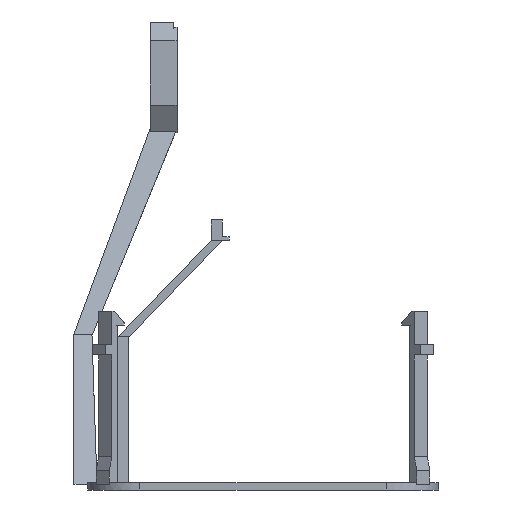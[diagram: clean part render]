
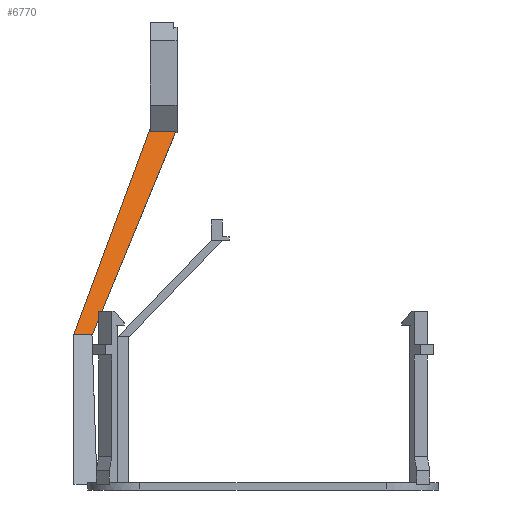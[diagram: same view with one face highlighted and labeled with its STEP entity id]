
A CAD part, left-side view. The second image highlights one B-rep face of the part: STEP entity #6770.
In plain terms, the highlighted free-form (B-spline) face has degree [1, 1] with [2, 2] control points.
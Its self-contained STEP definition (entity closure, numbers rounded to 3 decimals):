
#753 = B_SPLINE_SURFACE_WITH_KNOTS('',1,1,(
    (#754,#755)
    ,(#756,#757
    )),.UNSPECIFIED.,.F.,.F.,.F.,(2,2),(2,2),(-3.5,3.5),(0.,1.),
  .PIECEWISE_BEZIER_KNOTS.);
#754 = CARTESIAN_POINT('',(28.5,35.9,2.));
#755 = CARTESIAN_POINT('',(55.5,37.,34.4));
#756 = CARTESIAN_POINT('',(35.5,35.9,2.));
#757 = CARTESIAN_POINT('',(60.5,37.,34.4));
#6393 = B_SPLINE_SURFACE_WITH_KNOTS('',1,1,(
    (#6394,#6395)
    ,(#6396,#6397
    )),.UNSPECIFIED.,.F.,.F.,.F.,(2,2),(2,2),(-8.,8.),(0.,1.),
  .PIECEWISE_BEZIER_KNOTS.);
#6394 = CARTESIAN_POINT('',(55.5,37.,34.2));
#6395 = CARTESIAN_POINT('',(71.8,18.6,79.));
#6396 = CARTESIAN_POINT('',(60.5,37.,34.2));
#6397 = CARTESIAN_POINT('',(87.8,18.6,79.));
#6538 = PLANE('',#6539);
#6539 = AXIS2_PLACEMENT_3D('',#6540,#6541,#6542);
#6540 = CARTESIAN_POINT('',(55.5,37.,34.4));
#6541 = DIRECTION('',(0.,0.,1.));
#6542 = DIRECTION('',(0.781,0.625,-0.));
#6591 = B_SPLINE_SURFACE_WITH_KNOTS('',1,1,(
    (#6592,#6593)
    ,(#6594,#6595
    )),.UNSPECIFIED.,.F.,.F.,.F.,(2,2),(2,2),(-8.,8.),(0.,1.),
  .PIECEWISE_BEZIER_KNOTS.);
#6592 = CARTESIAN_POINT('',(60.5,41.,34.2));
#6593 = CARTESIAN_POINT('',(87.8,24.4,79.));
#6594 = CARTESIAN_POINT('',(55.5,41.,34.2));
#6595 = CARTESIAN_POINT('',(71.8,24.4,79.));
#6684 = VERTEX_POINT('',#6685);
#6685 = CARTESIAN_POINT('',(55.573,37.,34.4));
#6705 = EDGE_CURVE('',#6684,#6706,#6708,.T.);
#6706 = VERTEX_POINT('',#6707);
#6707 = CARTESIAN_POINT('',(55.573,40.926,34.4));
#6708 = SURFACE_CURVE('',#6709,(#6712,#6718),.PCURVE_S1.);
#6709 = B_SPLINE_CURVE_WITH_KNOTS('',1,(#6710,#6711),.UNSPECIFIED.,.F.,
  .F.,(2,2),(0.,1.),.PIECEWISE_BEZIER_KNOTS.);
#6710 = CARTESIAN_POINT('',(55.573,36.918,34.4));
#6711 = CARTESIAN_POINT('',(55.573,40.926,34.4));
#6712 = PCURVE('',#6538,#6713);
#6713 = DEFINITIONAL_REPRESENTATION('',(#6714),#6717);
#6714 = B_SPLINE_CURVE_WITH_KNOTS('',1,(#6715,#6716),.UNSPECIFIED.,.F.,
  .F.,(2,2),(0.,1.),.PIECEWISE_BEZIER_KNOTS.);
#6715 = CARTESIAN_POINT('',(0.006,-0.11));
#6716 = CARTESIAN_POINT('',(2.509,3.02));
#6717 = ( GEOMETRIC_REPRESENTATION_CONTEXT(2) 
PARAMETRIC_REPRESENTATION_CONTEXT() REPRESENTATION_CONTEXT('2D SPACE',''
  ) );
#6718 = PCURVE('',#6719,#6724);
#6719 = B_SPLINE_SURFACE_WITH_KNOTS('',1,1,(
    (#6720,#6721)
    ,(#6722,#6723
    )),.UNSPECIFIED.,.F.,.F.,.F.,(2,2),(2,2),(-2.9,2.9),(0.,1.),
  .PIECEWISE_BEZIER_KNOTS.);
#6720 = CARTESIAN_POINT('',(55.5,41.,34.2));
#6721 = CARTESIAN_POINT('',(71.8,24.4,79.));
#6722 = CARTESIAN_POINT('',(55.5,37.,34.2));
#6723 = CARTESIAN_POINT('',(71.8,18.6,79.));
#6724 = DEFINITIONAL_REPRESENTATION('',(#6725),#6728);
#6725 = B_SPLINE_CURVE_WITH_KNOTS('',1,(#6726,#6727),.UNSPECIFIED.,.F.,
  .F.,(2,2),(0.,1.),.PIECEWISE_BEZIER_KNOTS.);
#6726 = CARTESIAN_POINT('',(2.9,0.004));
#6727 = CARTESIAN_POINT('',(-2.9,0.004));
#6728 = ( GEOMETRIC_REPRESENTATION_CONTEXT(2) 
PARAMETRIC_REPRESENTATION_CONTEXT() REPRESENTATION_CONTEXT('2D SPACE',''
  ) );
#6770 = ADVANCED_FACE('',(#6771),#6719,.T.);
#6771 = FACE_BOUND('',#6772,.T.);
#6772 = EDGE_LOOP('',(#6773,#6802,#6824,#6849,#6892,#6912));
#6773 = ORIENTED_EDGE('',*,*,#6774,.F.);
#6774 = EDGE_CURVE('',#6775,#6684,#6777,.T.);
#6775 = VERTEX_POINT('',#6776);
#6776 = CARTESIAN_POINT('',(55.506,36.994,
    34.215));
#6777 = SURFACE_CURVE('',#6778,(#6784,#6793),.PCURVE_S1.);
#6778 = B_SPLINE_CURVE_WITH_KNOTS('',4,(#6779,#6780,#6781,#6782,#6783),
  .UNSPECIFIED.,.F.,.F.,(5,5),(0.,1.),.PIECEWISE_BEZIER_KNOTS.);
#6779 = CARTESIAN_POINT('',(55.506,36.994,
    34.215));
#6780 = CARTESIAN_POINT('',(55.522,36.995,
    34.261));
#6781 = CARTESIAN_POINT('',(55.539,36.997,
    34.308));
#6782 = CARTESIAN_POINT('',(55.556,36.998,
    34.354));
#6783 = CARTESIAN_POINT('',(55.573,37.,34.4));
#6784 = PCURVE('',#6719,#6785);
#6785 = DEFINITIONAL_REPRESENTATION('',(#6786),#6792);
#6786 = B_SPLINE_CURVE_WITH_KNOTS('',4,(#6787,#6788,#6789,#6790,#6791),
  .UNSPECIFIED.,.F.,.F.,(5,5),(0.,1.),.PIECEWISE_BEZIER_KNOTS.);
#6787 = CARTESIAN_POINT('',(2.9,0.));
#6788 = CARTESIAN_POINT('',(2.87,0.001));
#6789 = CARTESIAN_POINT('',(2.84,0.002));
#6790 = CARTESIAN_POINT('',(2.811,0.003));
#6791 = CARTESIAN_POINT('',(2.781,0.004));
#6792 = ( GEOMETRIC_REPRESENTATION_CONTEXT(2) 
PARAMETRIC_REPRESENTATION_CONTEXT() REPRESENTATION_CONTEXT('2D SPACE',''
  ) );
#6793 = PCURVE('',#753,#6794);
#6794 = DEFINITIONAL_REPRESENTATION('',(#6795),#6801);
#6795 = B_SPLINE_CURVE_WITH_KNOTS('',4,(#6796,#6797,#6798,#6799,#6800),
  .UNSPECIFIED.,.F.,.F.,(5,5),(0.,1.),.PIECEWISE_BEZIER_KNOTS.);
#6796 = CARTESIAN_POINT('',(-3.277,0.994));
#6797 = CARTESIAN_POINT('',(-3.307,0.996));
#6798 = CARTESIAN_POINT('',(-3.338,0.997));
#6799 = CARTESIAN_POINT('',(-3.368,0.999));
#6800 = CARTESIAN_POINT('',(-3.398,1.));
#6801 = ( GEOMETRIC_REPRESENTATION_CONTEXT(2) 
PARAMETRIC_REPRESENTATION_CONTEXT() REPRESENTATION_CONTEXT('2D SPACE',''
  ) );
#6802 = ORIENTED_EDGE('',*,*,#6803,.T.);
#6803 = EDGE_CURVE('',#6775,#6804,#6806,.T.);
#6804 = VERTEX_POINT('',#6805);
#6805 = CARTESIAN_POINT('',(71.565,18.866,
    78.353));
#6806 = SURFACE_CURVE('',#6807,(#6810,#6817),.PCURVE_S1.);
#6807 = B_SPLINE_CURVE_WITH_KNOTS('',1,(#6808,#6809),.UNSPECIFIED.,.F.,
  .F.,(2,2),(0.,1.),.PIECEWISE_BEZIER_KNOTS.);
#6808 = CARTESIAN_POINT('',(55.5,37.,34.2));
#6809 = CARTESIAN_POINT('',(71.8,18.6,79.));
#6810 = PCURVE('',#6719,#6811);
#6811 = DEFINITIONAL_REPRESENTATION('',(#6812),#6816);
#6812 = LINE('',#6813,#6814);
#6813 = CARTESIAN_POINT('',(2.9,0.));
#6814 = VECTOR('',#6815,1.);
#6815 = DIRECTION('',(0.,1.));
#6816 = ( GEOMETRIC_REPRESENTATION_CONTEXT(2) 
PARAMETRIC_REPRESENTATION_CONTEXT() REPRESENTATION_CONTEXT('2D SPACE',''
  ) );
#6817 = PCURVE('',#6393,#6818);
#6818 = DEFINITIONAL_REPRESENTATION('',(#6819),#6823);
#6819 = LINE('',#6820,#6821);
#6820 = CARTESIAN_POINT('',(-8.,0.));
#6821 = VECTOR('',#6822,1.);
#6822 = DIRECTION('',(0.,1.));
#6823 = ( GEOMETRIC_REPRESENTATION_CONTEXT(2) 
PARAMETRIC_REPRESENTATION_CONTEXT() REPRESENTATION_CONTEXT('2D SPACE',''
  ) );
#6824 = ORIENTED_EDGE('',*,*,#6825,.T.);
#6825 = EDGE_CURVE('',#6804,#6826,#6828,.T.);
#6826 = VERTEX_POINT('',#6827);
#6827 = CARTESIAN_POINT('',(71.565,24.4,78.353));
#6828 = SURFACE_CURVE('',#6829,(#6832,#6838),.PCURVE_S1.);
#6829 = B_SPLINE_CURVE_WITH_KNOTS('',1,(#6830,#6831),.UNSPECIFIED.,.F.,
  .F.,(2,2),(0.,1.),.PIECEWISE_BEZIER_KNOTS.);
#6830 = CARTESIAN_POINT('',(71.565,18.866,
    78.353));
#6831 = CARTESIAN_POINT('',(71.565,24.4,78.353));
#6832 = PCURVE('',#6719,#6833);
#6833 = DEFINITIONAL_REPRESENTATION('',(#6834),#6837);
#6834 = B_SPLINE_CURVE_WITH_KNOTS('',1,(#6835,#6836),.UNSPECIFIED.,.F.,
  .F.,(2,2),(0.,1.),.PIECEWISE_BEZIER_KNOTS.);
#6835 = CARTESIAN_POINT('',(2.9,0.986));
#6836 = CARTESIAN_POINT('',(-2.659,0.986));
#6837 = ( GEOMETRIC_REPRESENTATION_CONTEXT(2) 
PARAMETRIC_REPRESENTATION_CONTEXT() REPRESENTATION_CONTEXT('2D SPACE',''
  ) );
#6838 = PCURVE('',#6839,#6844);
#6839 = PLANE('',#6840);
#6840 = AXIS2_PLACEMENT_3D('',#6841,#6842,#6843);
#6841 = CARTESIAN_POINT('',(71.8,18.6,78.));
#6842 = DIRECTION('',(0.832,0.,0.555));
#6843 = DIRECTION('',(-0.555,0.,0.832));
#6844 = DEFINITIONAL_REPRESENTATION('',(#6845),#6848);
#6845 = B_SPLINE_CURVE_WITH_KNOTS('',1,(#6846,#6847),.UNSPECIFIED.,.F.,
  .F.,(2,2),(0.,1.),.PIECEWISE_BEZIER_KNOTS.);
#6846 = CARTESIAN_POINT('',(0.424,-0.266));
#6847 = CARTESIAN_POINT('',(0.424,-5.8));
#6848 = ( GEOMETRIC_REPRESENTATION_CONTEXT(2) 
PARAMETRIC_REPRESENTATION_CONTEXT() REPRESENTATION_CONTEXT('2D SPACE',''
  ) );
#6849 = ORIENTED_EDGE('',*,*,#6850,.T.);
#6850 = EDGE_CURVE('',#6826,#6851,#6853,.T.);
#6851 = VERTEX_POINT('',#6852);
#6852 = CARTESIAN_POINT('',(71.8,24.4,79.));
#6853 = SURFACE_CURVE('',#6854,(#6863,#6875),.PCURVE_S1.);
#6854 = B_SPLINE_CURVE_WITH_KNOTS('',4,(#6855,#6856,#6857,#6858,#6859,
    #6860,#6861,#6862),.UNSPECIFIED.,.F.,.F.,(5,3,5),(0.,0.113,
    1.),.UNSPECIFIED.);
#6855 = CARTESIAN_POINT('',(71.436,24.4,78.));
#6856 = CARTESIAN_POINT('',(71.446,24.4,78.028));
#6857 = CARTESIAN_POINT('',(71.457,24.4,78.057));
#6858 = CARTESIAN_POINT('',(71.467,24.4,78.085));
#6859 = CARTESIAN_POINT('',(71.558,24.4,78.335));
#6860 = CARTESIAN_POINT('',(71.639,24.4,78.556));
#6861 = CARTESIAN_POINT('',(71.719,24.4,78.778));
#6862 = CARTESIAN_POINT('',(71.8,24.4,79.));
#6863 = PCURVE('',#6719,#6864);
#6864 = DEFINITIONAL_REPRESENTATION('',(#6865),#6874);
#6865 = B_SPLINE_CURVE_WITH_KNOTS('',4,(#6866,#6867,#6868,#6869,#6870,
    #6871,#6872,#6873),.UNSPECIFIED.,.F.,.F.,(5,3,5),(0.,0.113,
    1.),.UNSPECIFIED.);
#6866 = CARTESIAN_POINT('',(-2.527,0.978));
#6867 = CARTESIAN_POINT('',(-2.538,0.978));
#6868 = CARTESIAN_POINT('',(-2.548,0.979));
#6869 = CARTESIAN_POINT('',(-2.559,0.98));
#6870 = CARTESIAN_POINT('',(-2.653,0.985));
#6871 = CARTESIAN_POINT('',(-2.735,0.99));
#6872 = CARTESIAN_POINT('',(-2.818,0.995));
#6873 = CARTESIAN_POINT('',(-2.9,1.));
#6874 = ( GEOMETRIC_REPRESENTATION_CONTEXT(2) 
PARAMETRIC_REPRESENTATION_CONTEXT() REPRESENTATION_CONTEXT('2D SPACE',''
  ) );
#6875 = PCURVE('',#6876,#6881);
#6876 = PLANE('',#6877);
#6877 = AXIS2_PLACEMENT_3D('',#6878,#6879,#6880);
#6878 = CARTESIAN_POINT('',(79.8,24.4,90.132));
#6879 = DIRECTION('',(0.,1.,0.));
#6880 = DIRECTION('',(1.,0.,0.));
#6881 = DEFINITIONAL_REPRESENTATION('',(#6882),#6891);
#6882 = B_SPLINE_CURVE_WITH_KNOTS('',4,(#6883,#6884,#6885,#6886,#6887,
    #6888,#6889,#6890),.UNSPECIFIED.,.F.,.F.,(5,3,5),(0.,0.113,
    1.),.UNSPECIFIED.);
#6883 = CARTESIAN_POINT('',(-8.364,12.132));
#6884 = CARTESIAN_POINT('',(-8.354,12.104));
#6885 = CARTESIAN_POINT('',(-8.343,12.076));
#6886 = CARTESIAN_POINT('',(-8.333,12.047));
#6887 = CARTESIAN_POINT('',(-8.242,11.797));
#6888 = CARTESIAN_POINT('',(-8.161,11.576));
#6889 = CARTESIAN_POINT('',(-8.081,11.354));
#6890 = CARTESIAN_POINT('',(-8.,11.132));
#6891 = ( GEOMETRIC_REPRESENTATION_CONTEXT(2) 
PARAMETRIC_REPRESENTATION_CONTEXT() REPRESENTATION_CONTEXT('2D SPACE',''
  ) );
#6892 = ORIENTED_EDGE('',*,*,#6893,.F.);
#6893 = EDGE_CURVE('',#6706,#6851,#6894,.T.);
#6894 = SURFACE_CURVE('',#6895,(#6898,#6905),.PCURVE_S1.);
#6895 = B_SPLINE_CURVE_WITH_KNOTS('',1,(#6896,#6897),.UNSPECIFIED.,.F.,
  .F.,(2,2),(0.,1.),.PIECEWISE_BEZIER_KNOTS.);
#6896 = CARTESIAN_POINT('',(55.5,41.,34.2));
#6897 = CARTESIAN_POINT('',(71.8,24.4,79.));
#6898 = PCURVE('',#6719,#6899);
#6899 = DEFINITIONAL_REPRESENTATION('',(#6900),#6904);
#6900 = LINE('',#6901,#6902);
#6901 = CARTESIAN_POINT('',(-2.9,0.));
#6902 = VECTOR('',#6903,1.);
#6903 = DIRECTION('',(0.,1.));
#6904 = ( GEOMETRIC_REPRESENTATION_CONTEXT(2) 
PARAMETRIC_REPRESENTATION_CONTEXT() REPRESENTATION_CONTEXT('2D SPACE',''
  ) );
#6905 = PCURVE('',#6591,#6906);
#6906 = DEFINITIONAL_REPRESENTATION('',(#6907),#6911);
#6907 = LINE('',#6908,#6909);
#6908 = CARTESIAN_POINT('',(8.,0.));
#6909 = VECTOR('',#6910,1.);
#6910 = DIRECTION('',(0.,1.));
#6911 = ( GEOMETRIC_REPRESENTATION_CONTEXT(2) 
PARAMETRIC_REPRESENTATION_CONTEXT() REPRESENTATION_CONTEXT('2D SPACE',''
  ) );
#6912 = ORIENTED_EDGE('',*,*,#6705,.F.);
